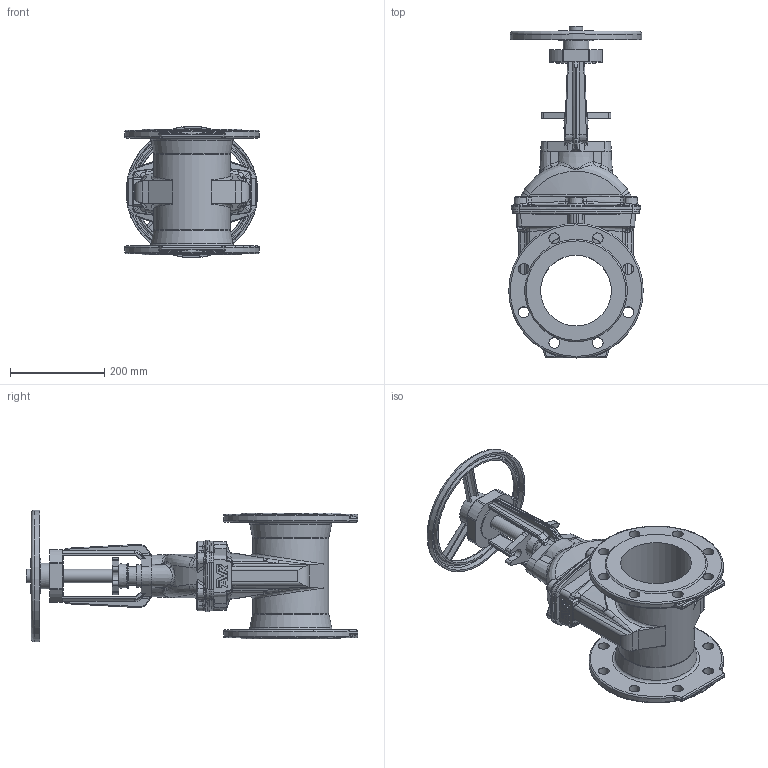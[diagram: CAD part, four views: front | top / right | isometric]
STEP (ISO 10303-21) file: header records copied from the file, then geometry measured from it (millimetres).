
FILE_DESCRIPTION (( 'STEP AP203' ), '1' );
FILE_NAME ('O_21_34_DN150_41XXXXX close_AA0.step', '2020-02-12T09:09:12', ( 'Windows User' ), ( 'AVK' ), 'SwSTEP 2.0', 'SolidWorks 2012', '' );
FILE_SCHEMA (( 'CONFIG_CONTROL_DESIGN' ));
Length unit declared in the file: millimetre
Products named in the file (1): O_21_34_DN150_41XXXXX close_AA0
Bounding box: 285 x 703.87 x 279.74 mm (x, y, z)
Volume: 8531039.3 mm3; surface area: 849119.3 mm2
Topology: 1 solids, 1 shells, 820 faces, 2097 edges, 1254 vertices
Faces by surface type: bspline 246, cylinder 218, plane 211, cone 68, torus 63, sphere 14
Full cylindrical faces by diameter (mm): 23 x16, 28 x2, 39.9 x1, 48 x1, 51 x1, 55 x1, 75 x1, 81 x1, 150 x1, 162 x1, 285 x2
Entity records: 34754 total; most frequent: CARTESIAN_POINT 17436, ORIENTED_EDGE 3980, DIRECTION 3130, EDGE_CURVE 1990, AXIS2_PLACEMENT_3D 1257, VERTEX_POINT 1224, EDGE_LOOP 916, FACE_OUTER_BOUND 858
